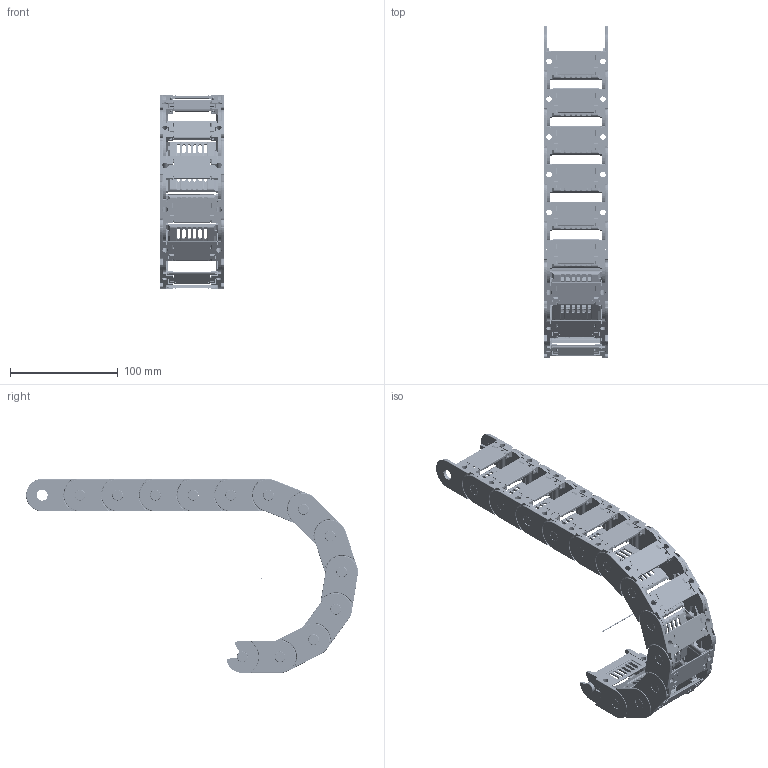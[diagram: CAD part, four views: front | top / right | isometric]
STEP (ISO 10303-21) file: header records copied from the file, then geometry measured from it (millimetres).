
FILE_DESCRIPTION((''),'2;1');
FILE_NAME('C:\Uebbing\PARAMETERKETTEN\KOLIBRI\Kol_30_060_1\KOLIBRI 30_060_1_R75.stp','2012-03-05T09:17:09',('Uebbing'),(''),'Autodesk Inventor 10','Autodesk Inventor 10','');
FILE_SCHEMA(('AUTOMOTIVE_DESIGN { 1 0 10303 214 1 1 1 1 }'));
Length unit declared in the file: millimetre
Products named in the file (5): KOLIBRI 30_060_1_PARAMETRISCH; Achse; Kolibri 30_060_1 Glied; Kol 30_060_1 Lasche; Kol 30_060_0 Klappsteg
Assembly tree (16 placements, depth 3):
  KOLIBRI 30_060_1_PARAMETRISCH
    Achse
    Kolibri 30_060_1 Glied  x13
      Kol 30_060_1 Lasche
      Kol 30_060_0 Klappsteg
Bounding box: 60 x 307.93 x 180 mm (x, y, z)
Volume: 204971.3 mm3; surface area: 195594.5 mm2
Topology: 27 solids, 27 shells, 9311 faces, 25913 edges, 16864 vertices
Faces by surface type: plane 3915, bspline 3133, cylinder 1847, torus 299, cone 78, sphere 39
Full cylindrical faces by diameter (mm): 1 x1, 1.166 x13, 2.048 x13, 2.8 x78, 5.1 x13, 10 x13, 10.1 x13
Entity records: 26307 total; most frequent: CARTESIAN_POINT 8631, ORIENTED_EDGE 3906, DIRECTION 3257, EDGE_CURVE 1953, VERTEX_POINT 1286, VECTOR 1211, LINE 1211, AXIS2_PLACEMENT_3D 1023
